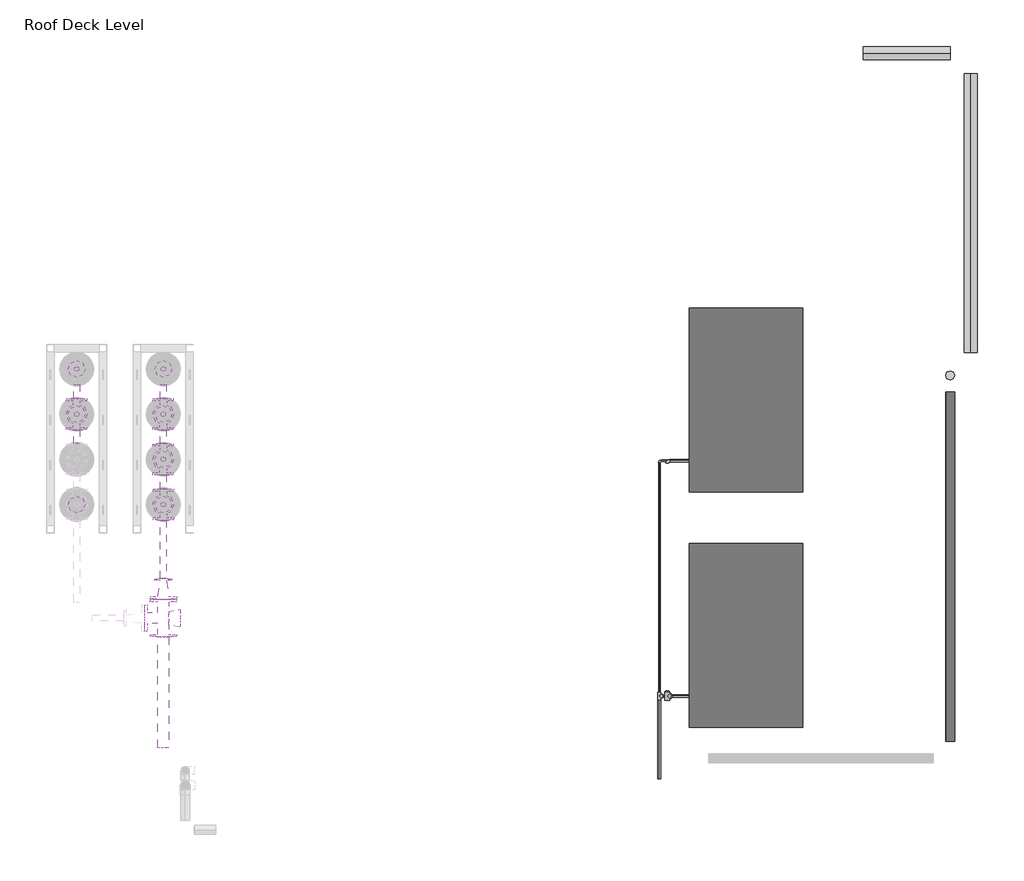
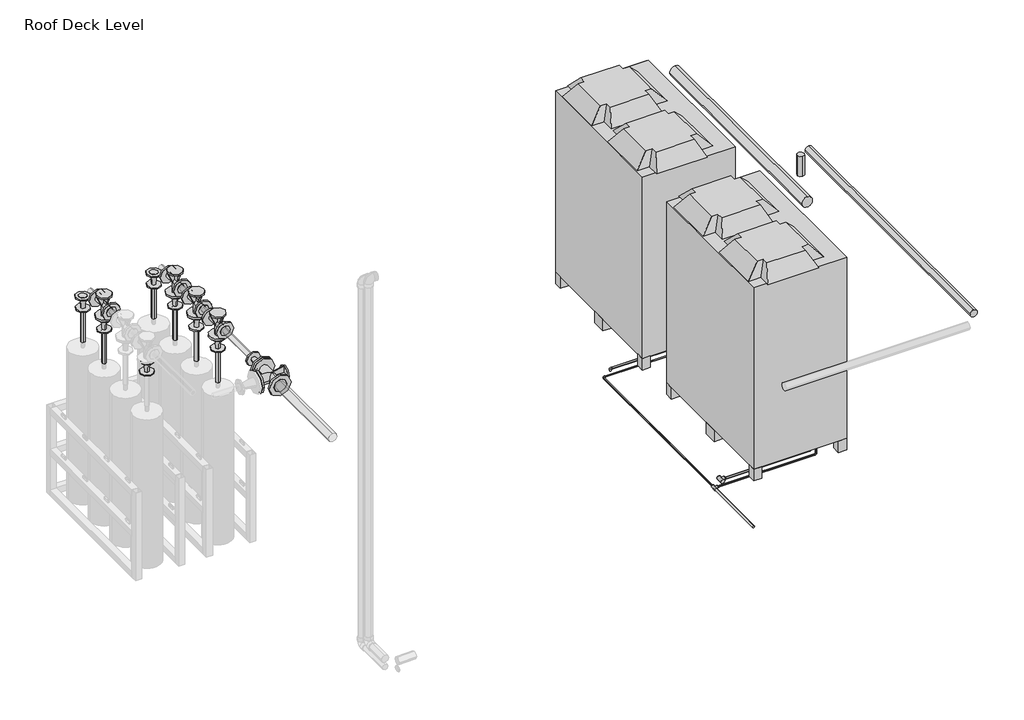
# One storey, part 3 of 3: 27 pipe fittings, 27 pipe segments, 2 proxies.
"""IFC4 building model written with IfcOpenShell, lengths in millimetres."""

from ifc_helpers import new_model, si_unit, point, frame, frame_2d, origin, place, context, project, spatial, circle_curve, trimmed, segment, composite_curve, outline, extrude, transform, mapped, element, save
from components import mechanical_equipment_ce02502f, m_elbow_generic_standard_bb5ffebe, m_elbow_generic_standard_f0c60a04, m_elbow_generic_standard_5acbe53e, m_reducer_flanged_cs_class_150_standard_b6b67c23, m_reducer_flanged_cs_class_150_standard_6ae1fdcb, m_reducer_flanged_cs_class_150_standard_777fbdd8, m_tee_generic_standard_3138dd84, m_tee_generic_standard_5078887e, m_tee_round_base_flanged_cs_class_150_standard_9c9133d0, m_tee_round_base_flanged_cs_class_150_standard_f067e6f9, m_transition_generic_standard_1c56dba2, m_transition_generic_standard_a7d161d7, m_transition_generic_standard_e868cdd7, m_transition_generic_standard_bb155b95

model = new_model("IFC4")

# Units and contexts
model_context = context("Model", 3, world=origin())
ifc_project = project(units=[si_unit("LENGTHUNIT", "METRE", prefix="MILLI")], contexts=[model_context])

# Site, building, storey
site = spatial("IfcSite", under=ifc_project)
building = spatial("IfcBuilding", under=site)
storey = spatial("IfcBuildingStorey", under=building, Name="Roof Deck Level", Elevation=4400.0)

# Proxies
placement = place(None, origin())
mechanical_equipment_shape = mechanical_equipment_ce02502f(model_context)
element("IfcBuildingElementProxy", 1, Name="Condenser-Daikin-RXYQ14-16-18P : RXYQ14P, 400v/50Hz/3Ph", ObjectType="Condenser-Daikin-RXYQ14-16-18P : RXYQ14P, 400v/50Hz/3Ph", at=placement, inside=storey, context=model_context, shape_type="MappedRepresentation", body=[
    mapped(mechanical_equipment_shape, transform((-2047.9099461, 18289.6783949, 4700.0), x_axis=(0.0, 1.0, 0.0), y_axis=(-1.0, 0.0, 0.0), z_axis=(0.0, 0.0, 1.0))),
])
element("IfcBuildingElementProxy", 2, Name="Condenser-Daikin-RXYQ14-16-18P : RXYQ14P, 400v/50Hz/3Ph", ObjectType="Condenser-Daikin-RXYQ14-16-18P : RXYQ14P, 400v/50Hz/3Ph", at=placement, inside=storey, context=model_context, shape_type="MappedRepresentation", body=[
    mapped(mechanical_equipment_shape, transform((-2047.9099461, 16700.904492, 4700.0), x_axis=(0.0, 1.0, 0.0), y_axis=(-1.0, 0.0, 0.0), z_axis=(0.0, 0.0, 1.0))),
])

# Pipe fittings
m_elbow_generic_standard_shape = m_elbow_generic_standard_bb5ffebe(model_context)
element("IfcPipeFitting", 3, ObjectType="M_Elbow - Generic : Standard", at=placement, inside=storey, context=model_context, shape_type="MappedRepresentation", body=[
    mapped(m_elbow_generic_standard_shape, transform((-1832.1333119, 17880.8017607, 4634.3568617), x_axis=(0.0, 0.0, -1.0), y_axis=(-1.0, 0.0, 0.0), z_axis=(0.0, 1.0, 0.0))),
])
element("IfcPipeFitting", 4, ObjectType="M_Elbow - Generic : Standard", at=placement, inside=storey, context=model_context, shape_type="MappedRepresentation", body=[
    mapped(m_elbow_generic_standard_shape, transform((-1832.1333119, 16292.0278578, 4634.3568617), x_axis=(0.0, 0.0, -1.0), y_axis=(-1.0, 0.0, 0.0), z_axis=(0.0, 1.0, 0.0))),
])
element("IfcPipeFitting", 5, ObjectType="M_Elbow - Generic : Standard", at=placement, inside=storey, context=model_context, shape_type="MappedRepresentation", body=[
    mapped(m_elbow_generic_standard_shape, transform((-2579.6952605, 17880.8017607, 4634.3568617), x_axis=(-1.0, 0.0, 0.0), y_axis=(0.0, -1.0, 0.0), z_axis=(0.0, 0.0, 1.0))),
])
m_elbow_generic_standard_2_shape = m_elbow_generic_standard_f0c60a04(model_context)
element("IfcPipeFitting", 6, ObjectType="M_Elbow - Generic : Standard", at=placement, inside=storey, context=model_context, shape_type="MappedRepresentation", body=[
    mapped(m_elbow_generic_standard_2_shape, transform((-1794.0061091, 17880.8745579, 4581.0887163), x_axis=(0.0, 0.0, -1.0), y_axis=(-1.0, 0.0, 0.0), z_axis=(0.0, 1.0, 0.0))),
])
element("IfcPipeFitting", 7, ObjectType="M_Elbow - Generic : Standard", at=placement, inside=storey, context=model_context, shape_type="MappedRepresentation", body=[
    mapped(m_elbow_generic_standard_2_shape, transform((-2632.5317949, 17880.8745579, 4581.0887163), x_axis=(-1.0, 0.0, 0.0), y_axis=(0.0, -0.9999999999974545, 2.2563342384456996e-06), z_axis=(0.0, 2.2563342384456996e-06, 0.9999999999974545))),
])
m_elbow_generic_standard_3_shape = m_elbow_generic_standard_5acbe53e(model_context)
element("IfcPipeFitting", 8, ObjectType="M_Elbow - Generic : Standard", at=placement, inside=storey, context=model_context, shape_type="MappedRepresentation", body=[
    mapped(m_elbow_generic_standard_3_shape, transform((-1794.0061091, 16292.100655, 4581.0887163), x_axis=(0.0, 0.0, -1.0), y_axis=(-1.0, 0.0, 0.0), z_axis=(0.0, 1.0, 0.0))),
])
m_reducer_flanged_cs_class_150_standard_shape = m_reducer_flanged_cs_class_150_standard_b6b67c23(model_context)
element("IfcPipeFitting", 9, ObjectType="M_Reducer - Flanged - CS - Class 150 : Standard", at=placement, inside=storey, context=model_context, shape_type="MappedRepresentation", body=[
    mapped(m_reducer_flanged_cs_class_150_standard_shape, transform((-6562.8546656, 18194.4611936, 6293.9014063), x_axis=(0.0, 0.0, -1.0), y_axis=(0.0, -1.0, 0.0), z_axis=(-1.0, 0.0, 0.0))),
])
element("IfcPipeFitting", 10, ObjectType="M_Reducer - Flanged - CS - Class 150 : Standard", at=placement, inside=storey, context=model_context, shape_type="MappedRepresentation", body=[
    mapped(m_reducer_flanged_cs_class_150_standard_shape, transform((-6562.8546656, 17584.8611936, 6293.9014063), x_axis=(0.0, 0.0, -1.0), y_axis=(0.0, -1.0, 0.0), z_axis=(-1.0, 0.0, 0.0))),
])
element("IfcPipeFitting", 11, ObjectType="M_Reducer - Flanged - CS - Class 150 : Standard", at=placement, inside=storey, context=model_context, shape_type="MappedRepresentation", body=[
    mapped(m_reducer_flanged_cs_class_150_standard_shape, transform((-5978.130502, 18194.4611936, 6293.9014063), x_axis=(0.0, 0.0, -1.0), y_axis=(0.0, -1.0, 0.0), z_axis=(-1.0, 0.0, 0.0))),
])
element("IfcPipeFitting", 12, ObjectType="M_Reducer - Flanged - CS - Class 150 : Standard", at=placement, inside=storey, context=model_context, shape_type="MappedRepresentation", body=[
    mapped(m_reducer_flanged_cs_class_150_standard_shape, transform((-5978.130502, 17584.8611936, 6293.9014063), x_axis=(0.0, 0.0, -1.0), y_axis=(0.0, -1.0, 0.0), z_axis=(-1.0, 0.0, 0.0))),
])
m_reducer_flanged_cs_class_150_standard_2_shape = m_reducer_flanged_cs_class_150_standard_6ae1fdcb(model_context)
element("IfcPipeFitting", 13, ObjectType="M_Reducer - Flanged - CS - Class 150 : Standard", at=placement, inside=storey, context=model_context, shape_type="MappedRepresentation", body=[
    mapped(m_reducer_flanged_cs_class_150_standard_2_shape, transform((-6562.8546656, 18499.2611936, 6293.9014063), x_axis=(0.0, 0.0, -1.0), y_axis=(-1.0, 0.0, 0.0), z_axis=(0.0, 1.0, 0.0))),
])
element("IfcPipeFitting", 14, ObjectType="M_Reducer - Flanged - CS - Class 150 : Standard", at=placement, inside=storey, context=model_context, shape_type="MappedRepresentation", body=[
    mapped(m_reducer_flanged_cs_class_150_standard_2_shape, transform((-5978.130502, 18499.2611936, 6293.9014063), x_axis=(0.0, 0.0, -1.0), y_axis=(-1.0, 0.0, 0.0), z_axis=(0.0, 1.0, 0.0))),
])
element("IfcPipeFitting", 15, ObjectType="M_Reducer - Flanged - CS - Class 150 : Standard", at=placement, inside=storey, context=model_context, shape_type="MappedRepresentation", body=[
    mapped(m_reducer_flanged_cs_class_150_standard_2_shape, transform((-5978.130502, 17889.6611936, 6293.9014063), x_axis=(0.0, 0.0, -1.0), y_axis=(-1.0, 0.0, 0.0), z_axis=(0.0, 1.0, 0.0))),
])
m_reducer_flanged_cs_class_150_standard_3_shape = m_reducer_flanged_cs_class_150_standard_777fbdd8(model_context)
element("IfcPipeFitting", 16, ObjectType="M_Reducer - Flanged - CS - Class 150 : Standard", at=placement, inside=storey, context=model_context, shape_type="MappedRepresentation", body=[
    mapped(m_reducer_flanged_cs_class_150_standard_3_shape, transform((-5978.130502, 16945.7625998, 6400.0), x_axis=(0.0, 1.0, 0.0), y_axis=(-1.0, 0.0, 0.0), z_axis=(0.0, 0.0, 1.0))),
])
m_tee_generic_standard_shape = m_tee_generic_standard_3138dd84(model_context)
element("IfcPipeFitting", 17, ObjectType="M_Tee - Generic : Standard", at=placement, inside=storey, context=model_context, shape_type="MappedRepresentation", body=[
    mapped(m_tee_generic_standard_shape, transform((-2579.6952605, 16292.0278578, 4634.3568617), x_axis=(0.0, -1.0, 0.0), y_axis=(-1.0, 0.0, 0.0), z_axis=(0.0, 0.0, -1.0))),
])
m_tee_generic_standard_2_shape = m_tee_generic_standard_5078887e(model_context)
element("IfcPipeFitting", 18, ObjectType="M_Tee - Generic : Standard", at=placement, inside=storey, context=model_context, shape_type="MappedRepresentation", body=[
    mapped(m_tee_generic_standard_2_shape, transform((-2632.5317947, 16292.100655, 4581.0921032), x_axis=(0.0, -0.999999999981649, -6.058218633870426e-06), y_axis=(-0.9999999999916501, -2.475707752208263e-11, 4.086527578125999e-06), z_axis=(-4.086527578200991e-06, 6.0582186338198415e-06, -0.9999999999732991))),
])
m_tee_round_base_flanged_cs_class_150_standard_shape = m_tee_round_base_flanged_cs_class_150_standard_9c9133d0(model_context)
element("IfcPipeFitting", 19, ObjectType="M_Tee Round Base - Flanged - CS - Class 150 : Standard", at=placement, inside=storey, context=model_context, shape_type="MappedRepresentation", body=[
    mapped(m_tee_round_base_flanged_cs_class_150_standard_shape, transform((-6562.8546656, 18194.4611936, 6400.0), x_axis=(0.0, 1.0, 0.0), y_axis=(0.0, 0.0, 1.0), z_axis=(1.0, 0.0, 0.0))),
])
element("IfcPipeFitting", 20, ObjectType="M_Tee Round Base - Flanged - CS - Class 150 : Standard", at=placement, inside=storey, context=model_context, shape_type="MappedRepresentation", body=[
    mapped(m_tee_round_base_flanged_cs_class_150_standard_shape, transform((-5978.130502, 18194.4611936, 6400.0), x_axis=(0.0, 1.0, 0.0), y_axis=(0.0, 0.0, 1.0), z_axis=(1.0, 0.0, 0.0))),
])
element("IfcPipeFitting", 21, ObjectType="M_Tee Round Base - Flanged - CS - Class 150 : Standard", at=placement, inside=storey, context=model_context, shape_type="MappedRepresentation", body=[
    mapped(m_tee_round_base_flanged_cs_class_150_standard_shape, transform((-5978.130502, 17889.6611936, 6400.0), x_axis=(0.0, 1.0, 0.0), y_axis=(0.0, 0.0, 1.0), z_axis=(1.0, 0.0, 0.0))),
])
element("IfcPipeFitting", 22, ObjectType="M_Tee Round Base - Flanged - CS - Class 150 : Standard", at=placement, inside=storey, context=model_context, shape_type="MappedRepresentation", body=[
    mapped(m_tee_round_base_flanged_cs_class_150_standard_shape, transform((-5978.130502, 17584.8611936, 6400.0), x_axis=(0.0, -1.0, 0.0), y_axis=(0.0, 0.0, 1.0), z_axis=(-1.0, 0.0, 0.0))),
])
m_tee_round_base_flanged_cs_class_150_standard_2_shape = m_tee_round_base_flanged_cs_class_150_standard_f067e6f9(model_context)
element("IfcPipeFitting", 23, ObjectType="M_Tee Round Base - Flanged - CS - Class 150 : Standard", at=placement, inside=storey, context=model_context, shape_type="MappedRepresentation", body=[
    mapped(m_tee_round_base_flanged_cs_class_150_standard_2_shape, transform((-5978.130502, 16818.7625998, 6400.0), x_axis=(0.0, 1.0, 0.0), y_axis=(1.0, 0.0, 0.0), z_axis=(0.0, 0.0, -1.0))),
])
m_transition_generic_standard_shape = m_transition_generic_standard_1c56dba2(model_context)
element("IfcPipeFitting", 24, ObjectType="M_Transition - Generic : Standard", at=placement, inside=storey, context=model_context, shape_type="MappedRepresentation", body=[
    mapped(m_transition_generic_standard_shape, transform((-2551.1202605, 16292.0278578, 4634.3568617), x_axis=(1.0, 0.0, 0.0), y_axis=(0.0, 1.0, 0.0), z_axis=(0.0, 0.0, 1.0))),
])
element("IfcPipeFitting", 25, ObjectType="M_Transition - Generic : Standard", at=placement, inside=storey, context=model_context, shape_type="MappedRepresentation", body=[
    mapped(m_transition_generic_standard_shape, transform((-2579.6952605, 16320.6028578, 4634.3568617), x_axis=(0.0, 1.0, 0.0), y_axis=(-1.0, 0.0, 0.0), z_axis=(0.0, 0.0, 1.0))),
])
m_transition_generic_standard_2_shape = m_transition_generic_standard_a7d161d7(model_context)
element("IfcPipeFitting", 26, ObjectType="M_Transition - Generic : Standard", at=placement, inside=storey, context=model_context, shape_type="MappedRepresentation", body=[
    mapped(m_transition_generic_standard_2_shape, transform((-2632.5317947, 16315.913155, 4581.0922474), x_axis=(0.0, 0.999999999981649, 6.05821863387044e-06), y_axis=(-0.9999999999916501, -2.4757077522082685e-11, 4.086527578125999e-06), z_axis=(4.086527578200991e-06, -6.058218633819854e-06, 0.9999999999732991))),
])
m_transition_generic_standard_3_shape = m_transition_generic_standard_e868cdd7(model_context)
element("IfcPipeFitting", 27, ObjectType="M_Transition - Generic : Standard", at=placement, inside=storey, context=model_context, shape_type="MappedRepresentation", body=[
    mapped(m_transition_generic_standard_3_shape, transform((-1794.0061091, 16292.100655, 4758.7502), x_axis=(0.0, 0.0, 1.0), y_axis=(-1.0, 0.0, 0.0), z_axis=(0.0, -1.0, 0.0))),
])
element("IfcPipeFitting", 28, ObjectType="M_Transition - Generic : Standard", at=placement, inside=storey, context=model_context, shape_type="MappedRepresentation", body=[
    mapped(m_transition_generic_standard_3_shape, transform((-1794.0061091, 17880.8745579, 4758.7502), x_axis=(0.0, 0.0, 1.0), y_axis=(-1.0, 0.0, 0.0), z_axis=(0.0, -1.0, 0.0))),
])
m_transition_generic_standard_4_shape = m_transition_generic_standard_bb155b95(model_context)
element("IfcPipeFitting", 29, ObjectType="M_Transition - Generic : Standard", at=placement, inside=storey, context=model_context, shape_type="MappedRepresentation", body=[
    mapped(m_transition_generic_standard_4_shape, transform((-2608.7192947, 16292.100655, 4581.0920058), x_axis=(0.9999999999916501, 0.0, -4.086527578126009e-06), y_axis=(2.4757077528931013e-11, 0.999999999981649, 6.058218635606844e-06), z_axis=(4.086527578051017e-06, -6.0582186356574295e-06, 0.9999999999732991))),
])

# Pipe segments
element("IfcPipeSegment", 30, ObjectType="Copper", at=placement, inside=storey, context=model_context, shape_type="SweptSolid", body=[
    extrude(outline(composite_curve([segment(trimmed(circle_curve(frame_2d((-1832.1333119, 16292.0278578)), 8.1), [point((-1824.0333119, 16292.0278578))], [point((-1832.1333119, 16283.9278578))], False, "CARTESIAN"), True, "CONTINUOUS"), segment(trimmed(circle_curve(frame_2d((-1832.1333119, 16292.0278578)), 8.1), [point((-1832.1333119, 16283.9278578))], [point((-1840.2333119, 16292.0278578))], False, "CARTESIAN"), True, "CONTINUOUS"), segment(trimmed(circle_curve(frame_2d((-1832.1333119, 16292.0278578)), 8.1), [point((-1840.2333119, 16292.0278578))], [point((-1832.1333119, 16300.1278578))], False, "CARTESIAN"), True, "CONTINUOUS"), segment(trimmed(circle_curve(frame_2d((-1832.1333119, 16292.0278578)), 8.1), [point((-1832.1333119, 16300.1278578))], [point((-1824.0333119, 16292.0278578))], False, "CARTESIAN"), True, "CONTINUOUS")], self_intersect=False)), frame((0.0, 0.0, 4650.2318617), z_axis=(0.0, 0.0, 1.0), x_axis=(1.0, 0.0, 0.0)), (0.0, 0.0, 1.0), 111.6933383),
])
element("IfcPipeSegment", 31, ObjectType="Copper", at=placement, inside=storey, context=model_context, shape_type="SweptSolid", body=[
    extrude(outline(composite_curve([segment(trimmed(circle_curve(frame_2d((16292.0278578, 4634.3568617)), 8.1), [point((16300.1278578, 4634.3568617))], [point((16292.0278578, 4626.2568617))], False, "CARTESIAN"), True, "CONTINUOUS"), segment(trimmed(circle_curve(frame_2d((16292.0278578, 4634.3568617)), 8.1), [point((16292.0278578, 4626.2568617))], [point((16283.9278578, 4634.3568617))], False, "CARTESIAN"), True, "CONTINUOUS"), segment(trimmed(circle_curve(frame_2d((16292.0278578, 4634.3568617)), 8.1), [point((16283.9278578, 4634.3568617))], [point((16292.0278578, 4642.4568617))], False, "CARTESIAN"), True, "CONTINUOUS"), segment(trimmed(circle_curve(frame_2d((16292.0278578, 4634.3568617)), 8.1), [point((16292.0278578, 4642.4568617))], [point((16300.1278578, 4634.3568617))], False, "CARTESIAN"), True, "CONTINUOUS")], self_intersect=False)), frame((-2543.1827605, 0.0, 0.0), z_axis=(1.0, 0.0, 0.0), x_axis=(0.0, 1.0, 0.0)), (0.0, 0.0, 1.0), 695.1744486),
])
element("IfcPipeSegment", 32, ObjectType="Copper", at=placement, inside=storey, context=model_context, shape_type="SweptSolid", body=[
    extrude(outline(composite_curve([segment(trimmed(circle_curve(frame_2d((-1794.0061091, 16292.100655)), 4.9), [point((-1789.1061091, 16292.100655))], [point((-1794.0061091, 16287.200655))], False, "CARTESIAN"), True, "CONTINUOUS"), segment(trimmed(circle_curve(frame_2d((-1794.0061091, 16292.100655)), 4.9), [point((-1794.0061091, 16287.200655))], [point((-1798.9061091, 16292.100655))], False, "CARTESIAN"), True, "CONTINUOUS"), segment(trimmed(circle_curve(frame_2d((-1794.0061091, 16292.100655)), 4.9), [point((-1798.9061091, 16292.100655))], [point((-1794.0061091, 16297.000655))], False, "CARTESIAN"), True, "CONTINUOUS"), segment(trimmed(circle_curve(frame_2d((-1794.0061091, 16292.100655)), 4.9), [point((-1794.0061091, 16297.000655))], [point((-1789.1061091, 16292.100655))], False, "CARTESIAN"), True, "CONTINUOUS")], self_intersect=False)), frame((0.0, 0.0, 4593.7762682), z_axis=(0.0, 0.0, 1.0), x_axis=(1.0, 0.0, 0.0)), (0.0, 0.0, 1.0), 164.9739318),
])
element("IfcPipeSegment", 33, ObjectType="Copper", at=placement, inside=storey, context=model_context, shape_type="SweptSolid", body=[
    extrude(outline(composite_curve([segment(trimmed(circle_curve(frame_2d((0.0, 4.9)), 4.9), [point((-4.9, 4.9))], [point((0.0, 9.8))], False, "CARTESIAN"), True, "CONTINUOUS"), segment(trimmed(circle_curve(frame_2d((0.0, 4.9)), 4.9), [point((0.0, 9.8))], [point((4.9, 4.9))], False, "CARTESIAN"), True, "CONTINUOUS"), segment(trimmed(circle_curve(frame_2d((0.0, 4.9)), 4.9), [point((4.9, 4.9))], [point((0.0, 0.0))], False, "CARTESIAN"), True, "CONTINUOUS"), segment(trimmed(circle_curve(frame_2d((0.0, 4.9)), 4.9), [point((0.0, 0.0))], [point((-4.9, 4.9))], False, "CARTESIAN"), True, "CONTINUOUS")], self_intersect=False)), frame((-1806.693681, 16292.100655, 4576.1887682), z_axis=(-0.9999999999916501, 0.0, 4.0865275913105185e-06), x_axis=(0.0, -1.0, 0.0)), (0.0, 0.0, 1.0), 796.4693838),
])
element("IfcPipeSegment", 34, ObjectType="Copper", at=placement, inside=storey, context=model_context, shape_type="SweptSolid", body=[
    extrude(outline(composite_curve([segment(trimmed(circle_curve(frame_2d((-1832.1333119, 17880.8017607)), 8.1), [point((-1824.0333119, 17880.8017607))], [point((-1832.1333119, 17872.7017607))], False, "CARTESIAN"), True, "CONTINUOUS"), segment(trimmed(circle_curve(frame_2d((-1832.1333119, 17880.8017607)), 8.1), [point((-1832.1333119, 17872.7017607))], [point((-1840.2333119, 17880.8017607))], False, "CARTESIAN"), True, "CONTINUOUS"), segment(trimmed(circle_curve(frame_2d((-1832.1333119, 17880.8017607)), 8.1), [point((-1840.2333119, 17880.8017607))], [point((-1832.1333119, 17888.9017607))], False, "CARTESIAN"), True, "CONTINUOUS"), segment(trimmed(circle_curve(frame_2d((-1832.1333119, 17880.8017607)), 8.1), [point((-1832.1333119, 17888.9017607))], [point((-1824.0333119, 17880.8017607))], False, "CARTESIAN"), True, "CONTINUOUS")], self_intersect=False)), frame((0.0, 0.0, 4650.2318617), z_axis=(0.0, 0.0, 1.0), x_axis=(1.0, 0.0, 0.0)), (0.0, 0.0, 1.0), 111.6933383),
])
element("IfcPipeSegment", 35, ObjectType="Copper", at=placement, inside=storey, context=model_context, shape_type="SweptSolid", body=[
    extrude(outline(composite_curve([segment(trimmed(circle_curve(frame_2d((17880.8017607, 4634.3568617)), 8.1), [point((17888.9017607, 4634.3568617))], [point((17880.8017607, 4626.2568617))], False, "CARTESIAN"), True, "CONTINUOUS"), segment(trimmed(circle_curve(frame_2d((17880.8017607, 4634.3568617)), 8.1), [point((17880.8017607, 4626.2568617))], [point((17872.7017607, 4634.3568617))], False, "CARTESIAN"), True, "CONTINUOUS"), segment(trimmed(circle_curve(frame_2d((17880.8017607, 4634.3568617)), 8.1), [point((17872.7017607, 4634.3568617))], [point((17880.8017607, 4642.4568617))], False, "CARTESIAN"), True, "CONTINUOUS"), segment(trimmed(circle_curve(frame_2d((17880.8017607, 4634.3568617)), 8.1), [point((17880.8017607, 4642.4568617))], [point((17888.9017607, 4634.3568617))], False, "CARTESIAN"), True, "CONTINUOUS")], self_intersect=False)), frame((-2563.8202605, 0.0, 0.0), z_axis=(1.0, 0.0, 0.0), x_axis=(0.0, 1.0, 0.0)), (0.0, 0.0, 1.0), 715.8119486),
])
element("IfcPipeSegment", 36, ObjectType="Copper", at=placement, inside=storey, context=model_context, shape_type="SweptSolid", body=[
    extrude(outline(composite_curve([segment(trimmed(circle_curve(frame_2d((-1794.0061091, 17880.8745579)), 4.9), [point((-1789.1061091, 17880.8745579))], [point((-1794.0061091, 17875.9745579))], False, "CARTESIAN"), True, "CONTINUOUS"), segment(trimmed(circle_curve(frame_2d((-1794.0061091, 17880.8745579)), 4.9), [point((-1794.0061091, 17875.9745579))], [point((-1798.9061091, 17880.8745579))], False, "CARTESIAN"), True, "CONTINUOUS"), segment(trimmed(circle_curve(frame_2d((-1794.0061091, 17880.8745579)), 4.9), [point((-1798.9061091, 17880.8745579))], [point((-1794.0061091, 17885.7745579))], False, "CARTESIAN"), True, "CONTINUOUS"), segment(trimmed(circle_curve(frame_2d((-1794.0061091, 17880.8745579)), 4.9), [point((-1794.0061091, 17885.7745579))], [point((-1789.1061091, 17880.8745579))], False, "CARTESIAN"), True, "CONTINUOUS")], self_intersect=False)), frame((0.0, 0.0, 4593.7762163), z_axis=(0.0, 0.0, 1.0), x_axis=(1.0, 0.0, 0.0)), (0.0, 0.0, 1.0), 164.9739837),
])
element("IfcPipeSegment", 37, ObjectType="Copper", at=placement, inside=storey, context=model_context, shape_type="SweptSolid", body=[
    extrude(outline(composite_curve([segment(trimmed(circle_curve(frame_2d((17880.8745579, 4581.0887163)), 4.9), [point((17885.7745579, 4581.0887163))], [point((17880.8745579, 4576.1887163))], False, "CARTESIAN"), True, "CONTINUOUS"), segment(trimmed(circle_curve(frame_2d((17880.8745579, 4581.0887163)), 4.9), [point((17880.8745579, 4576.1887163))], [point((17875.9745579, 4581.0887163))], False, "CARTESIAN"), True, "CONTINUOUS"), segment(trimmed(circle_curve(frame_2d((17880.8745579, 4581.0887163)), 4.9), [point((17875.9745579, 4581.0887163))], [point((17880.8745579, 4585.9887163))], False, "CARTESIAN"), True, "CONTINUOUS"), segment(trimmed(circle_curve(frame_2d((17880.8745579, 4581.0887163)), 4.9), [point((17880.8745579, 4585.9887163))], [point((17885.7745579, 4581.0887163))], False, "CARTESIAN"), True, "CONTINUOUS")], self_intersect=False)), frame((-2619.8442949, 0.0, 0.0), z_axis=(1.0, 0.0, 0.0), x_axis=(0.0, 1.0, 0.0)), (0.0, 0.0, 1.0), 813.1506858),
])
element("IfcPipeSegment", 38, ObjectType="Copper", at=placement, inside=storey, context=model_context, shape_type="SweptSolid", body=[
    extrude(outline(composite_curve([segment(trimmed(circle_curve(frame_2d((0.0, 4.9)), 4.9), [point((0.0, 0.0))], [point((-4.9, 4.9))], False, "CARTESIAN"), True, "CONTINUOUS"), segment(trimmed(circle_curve(frame_2d((0.0, 4.9)), 4.9), [point((-4.9, 4.9))], [point((0.0, 9.8))], False, "CARTESIAN"), True, "CONTINUOUS"), segment(trimmed(circle_curve(frame_2d((0.0, 4.9)), 4.9), [point((0.0, 9.8))], [point((4.9, 4.9))], False, "CARTESIAN"), True, "CONTINUOUS"), segment(trimmed(circle_curve(frame_2d((0.0, 4.9)), 4.9), [point((4.9, 4.9))], [point((0.0, 0.0))], False, "CARTESIAN"), True, "CONTINUOUS")], self_intersect=False)), frame((-2637.4317949, 17868.1870579, 4581.088745), z_axis=(0.0, -0.9999999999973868, 2.2862024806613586e-06), x_axis=(0.0, -2.2862024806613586e-06, -0.9999999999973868)), (0.0, 0.0, 1.0), 1546.7176529),
])
element("IfcPipeSegment", 39, ObjectType="Copper", at=placement, inside=storey, context=model_context, shape_type="SweptSolid", body=[
    extrude(outline(composite_curve([segment(trimmed(circle_curve(frame_2d((0.0, 9.75)), 9.75), [point((0.0, 19.5))], [point((9.75, 9.75))], False, "CARTESIAN"), True, "CONTINUOUS"), segment(trimmed(circle_curve(frame_2d((0.0, 9.75)), 9.75), [point((9.75, 9.75))], [point((0.0, 0.0))], False, "CARTESIAN"), True, "CONTINUOUS"), segment(trimmed(circle_curve(frame_2d((0.0, 9.75)), 9.75), [point((0.0, 0.0))], [point((-9.75, 9.75))], False, "CARTESIAN"), True, "CONTINUOUS"), segment(trimmed(circle_curve(frame_2d((0.0, 9.75)), 9.75), [point((-9.75, 9.75))], [point((0.0, 19.5))], False, "CARTESIAN"), True, "CONTINUOUS")], self_intersect=False)), frame((-2642.2817947, 15733.0560138, 4581.0887163), z_axis=(0.0, 0.9999999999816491, 6.058218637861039e-06), x_axis=(0.0, -6.058218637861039e-06, 0.9999999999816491)), (0.0, 0.0, 1.0), 535.2321413),
])
element("IfcPipeSegment", 40, ObjectType="Steel flanged", at=placement, inside=storey, context=model_context, shape_type="SweptSolid", body=[
    extrude(outline(composite_curve([segment(trimmed(circle_curve(frame_2d((5600.0, -670.9497913)), 30.1625), [point((5600.0, -640.7872913))], [point((5630.1625, -670.9497913))], False, "CARTESIAN"), True, "CONTINUOUS"), segment(trimmed(circle_curve(frame_2d((5600.0, -670.9497913)), 30.1625), [point((5630.1625, -670.9497913))], [point((5600.0, -701.1122913))], False, "CARTESIAN"), True, "CONTINUOUS"), segment(trimmed(circle_curve(frame_2d((5600.0, -670.9497913)), 30.1625), [point((5600.0, -701.1122913))], [point((5569.8375, -670.9497913))], False, "CARTESIAN"), True, "CONTINUOUS"), segment(trimmed(circle_curve(frame_2d((5600.0, -670.9497913)), 30.1625), [point((5569.8375, -670.9497913))], [point((5600.0, -640.7872913))], False, "CARTESIAN"), True, "CONTINUOUS")], self_intersect=False)), frame((0.0, 15987.00909, 0.0), z_axis=(0.0, 1.0, 0.0), x_axis=(0.0, 0.0, 1.0)), (0.0, 0.0, 1.0), 2355.7102903),
])
element("IfcPipeSegment", 41, ObjectType="Steel flanged", at=placement, inside=storey, context=model_context, shape_type="SweptSolid", body=[
    extrude(outline(composite_curve([segment(trimmed(circle_curve(frame_2d((-670.9497913, 18456.7193803)), 30.1625), [point((-701.1122913, 18456.7193803))], [point((-670.9497913, 18486.8818803))], False, "CARTESIAN"), True, "CONTINUOUS"), segment(trimmed(circle_curve(frame_2d((-670.9497913, 18456.7193803)), 30.1625), [point((-670.9497913, 18486.8818803))], [point((-640.7872913, 18456.7193803))], False, "CARTESIAN"), True, "CONTINUOUS"), segment(trimmed(circle_curve(frame_2d((-670.9497913, 18456.7193803)), 30.1625), [point((-640.7872913, 18456.7193803))], [point((-670.9497913, 18426.5568803))], False, "CARTESIAN"), True, "CONTINUOUS"), segment(trimmed(circle_curve(frame_2d((-670.9497913, 18456.7193803)), 30.1625), [point((-670.9497913, 18426.5568803))], [point((-701.1122913, 18456.7193803))], False, "CARTESIAN"), True, "CONTINUOUS")], self_intersect=False)), frame((0.0, 0.0, 5312.0), z_axis=(0.0, 0.0, 1.0), x_axis=(1.0, 0.0, 0.0)), (0.0, 0.0, 1.0), 174.0),
])
element("IfcPipeSegment", 42, ObjectType="Steel flanged", at=placement, inside=storey, context=model_context, shape_type="SweptSolid", body=[
    extrude(outline(composite_curve([segment(trimmed(circle_curve(frame_2d((4931.0, -531.2497913)), 44.45), [point((4931.0, -486.7997913))], [point((4975.45, -531.2497913))], False, "CARTESIAN"), True, "CONTINUOUS"), segment(trimmed(circle_curve(frame_2d((4931.0, -531.2497913)), 44.45), [point((4975.45, -531.2497913))], [point((4931.0, -575.6997913))], False, "CARTESIAN"), True, "CONTINUOUS"), segment(trimmed(circle_curve(frame_2d((4931.0, -531.2497913)), 44.45), [point((4931.0, -575.6997913))], [point((4886.55, -531.2497913))], False, "CARTESIAN"), True, "CONTINUOUS"), segment(trimmed(circle_curve(frame_2d((4931.0, -531.2497913)), 44.45), [point((4886.55, -531.2497913))], [point((4931.0, -486.7997913))], False, "CARTESIAN"), True, "CONTINUOUS")], self_intersect=False)), frame((0.0, 18609.1193803, 0.0), z_axis=(0.0, 1.0, 0.0), x_axis=(0.0, 0.0, 1.0)), (0.0, 0.0, 1.0), 1882.4573069),
])
element("IfcPipeSegment", 43, ObjectType="Steel flanged", at=placement, inside=storey, context=model_context, shape_type="SweptSolid", body=[
    extrude(outline(composite_curve([segment(trimmed(circle_curve(frame_2d((20631.5766872, 4931.0)), 44.45), [point((20676.0266872, 4931.0))], [point((20631.5766872, 4886.55))], False, "CARTESIAN"), True, "CONTINUOUS"), segment(trimmed(circle_curve(frame_2d((20631.5766872, 4931.0)), 44.45), [point((20631.5766872, 4886.55))], [point((20587.1266872, 4931.0))], False, "CARTESIAN"), True, "CONTINUOUS"), segment(trimmed(circle_curve(frame_2d((20631.5766872, 4931.0)), 44.45), [point((20587.1266872, 4931.0))], [point((20631.5766872, 4975.45))], False, "CARTESIAN"), True, "CONTINUOUS"), segment(trimmed(circle_curve(frame_2d((20631.5766872, 4931.0)), 44.45), [point((20631.5766872, 4975.45))], [point((20676.0266872, 4931.0))], False, "CARTESIAN"), True, "CONTINUOUS")], self_intersect=False)), frame((-1257.5752057, 0.0, 0.0), z_axis=(1.0, 0.0, 0.0), x_axis=(0.0, 1.0, 0.0)), (0.0, 0.0, 1.0), 586.3254144),
])
element("IfcPipeSegment", 44, ObjectType="Steel flanged", at=placement, inside=storey, context=model_context, shape_type="SweptSolid", body=[
    extrude(outline(composite_curve([segment(trimmed(circle_curve(frame_2d((-6562.8546656, 18499.2611936)), 16.7005), [point((-6579.5551656, 18499.2611936))], [point((-6562.8546656, 18515.9616936))], False, "CARTESIAN"), True, "CONTINUOUS"), segment(trimmed(circle_curve(frame_2d((-6562.8546656, 18499.2611936)), 16.7005), [point((-6562.8546656, 18515.9616936))], [point((-6546.1541656, 18499.2611936))], False, "CARTESIAN"), True, "CONTINUOUS"), segment(trimmed(circle_curve(frame_2d((-6562.8546656, 18499.2611936)), 16.7005), [point((-6546.1541656, 18499.2611936))], [point((-6562.8546656, 18482.5606936))], False, "CARTESIAN"), True, "CONTINUOUS"), segment(trimmed(circle_curve(frame_2d((-6562.8546656, 18499.2611936)), 16.7005), [point((-6562.8546656, 18482.5606936))], [point((-6579.5551656, 18499.2611936))], False, "CARTESIAN"), True, "CONTINUOUS")], self_intersect=False)), frame((0.0, 0.0, 5895.4), z_axis=(0.0, 0.0, 1.0), x_axis=(1.0, 0.0, 0.0)), (0.0, 0.0, 1.0), 284.5014063),
])
element("IfcPipeSegment", 45, ObjectType="Steel flanged", at=placement, inside=storey, context=model_context, shape_type="SweptSolid", body=[
    extrude(outline(composite_curve([segment(trimmed(circle_curve(frame_2d((6400.0, -6562.8546656)), 21.082), [point((6400.0, -6583.9366656))], [point((6378.918, -6562.8546656))], False, "CARTESIAN"), True, "CONTINUOUS"), segment(trimmed(circle_curve(frame_2d((6400.0, -6562.8546656)), 21.082), [point((6378.918, -6562.8546656))], [point((6400.0, -6541.7726656))], False, "CARTESIAN"), True, "CONTINUOUS"), segment(trimmed(circle_curve(frame_2d((6400.0, -6562.8546656)), 21.082), [point((6400.0, -6541.7726656))], [point((6421.082, -6562.8546656))], False, "CARTESIAN"), True, "CONTINUOUS"), segment(trimmed(circle_curve(frame_2d((6400.0, -6562.8546656)), 21.082), [point((6421.082, -6562.8546656))], [point((6400.0, -6583.9366656))], False, "CARTESIAN"), True, "CONTINUOUS")], self_intersect=False)), frame((0.0, 18300.5597873, 0.0), z_axis=(0.0, 1.0, 0.0), x_axis=(0.0, 0.0, 1.0)), (0.0, 0.0, 1.0), 92.6028125),
])
element("IfcPipeSegment", 46, ObjectType="Steel flanged", at=placement, inside=storey, context=model_context, shape_type="SweptSolid", body=[
    extrude(outline(composite_curve([segment(trimmed(circle_curve(frame_2d((-6562.8546656, 18194.4611936)), 16.7005), [point((-6579.5551656, 18194.4611936))], [point((-6562.8546656, 18211.1616936))], False, "CARTESIAN"), True, "CONTINUOUS"), segment(trimmed(circle_curve(frame_2d((-6562.8546656, 18194.4611936)), 16.7005), [point((-6562.8546656, 18211.1616936))], [point((-6546.1541656, 18194.4611936))], False, "CARTESIAN"), True, "CONTINUOUS"), segment(trimmed(circle_curve(frame_2d((-6562.8546656, 18194.4611936)), 16.7005), [point((-6546.1541656, 18194.4611936))], [point((-6562.8546656, 18177.7606936))], False, "CARTESIAN"), True, "CONTINUOUS"), segment(trimmed(circle_curve(frame_2d((-6562.8546656, 18194.4611936)), 16.7005), [point((-6562.8546656, 18177.7606936))], [point((-6579.5551656, 18194.4611936))], False, "CARTESIAN"), True, "CONTINUOUS")], self_intersect=False)), frame((0.0, 0.0, 5895.4), z_axis=(0.0, 0.0, 1.0), x_axis=(1.0, 0.0, 0.0)), (0.0, 0.0, 1.0), 284.5014063),
])
element("IfcPipeSegment", 47, ObjectType="Steel flanged", at=placement, inside=storey, context=model_context, shape_type="SweptSolid", body=[
    extrude(outline(composite_curve([segment(trimmed(circle_curve(frame_2d((6400.0, -6562.8546656)), 21.082), [point((6400.0, -6583.9366656))], [point((6378.918, -6562.8546656))], False, "CARTESIAN"), True, "CONTINUOUS"), segment(trimmed(circle_curve(frame_2d((6400.0, -6562.8546656)), 21.082), [point((6378.918, -6562.8546656))], [point((6400.0, -6541.7726656))], False, "CARTESIAN"), True, "CONTINUOUS"), segment(trimmed(circle_curve(frame_2d((6400.0, -6562.8546656)), 21.082), [point((6400.0, -6541.7726656))], [point((6421.082, -6562.8546656))], False, "CARTESIAN"), True, "CONTINUOUS"), segment(trimmed(circle_curve(frame_2d((6400.0, -6562.8546656)), 21.082), [point((6421.082, -6562.8546656))], [point((6400.0, -6583.9366656))], False, "CARTESIAN"), True, "CONTINUOUS")], self_intersect=False)), frame((0.0, 17995.7597873, 0.0), z_axis=(0.0, 1.0, 0.0), x_axis=(0.0, 0.0, 1.0)), (0.0, 0.0, 1.0), 92.6028125),
])
element("IfcPipeSegment", 48, ObjectType="Steel flanged", at=placement, inside=storey, context=model_context, shape_type="SweptSolid", body=[
    extrude(outline(composite_curve([segment(trimmed(circle_curve(frame_2d((6400.0, -5978.130502)), 21.082), [point((6400.0, -5999.212502))], [point((6378.918, -5978.130502))], False, "CARTESIAN"), True, "CONTINUOUS"), segment(trimmed(circle_curve(frame_2d((6400.0, -5978.130502)), 21.082), [point((6378.918, -5978.130502))], [point((6400.0, -5957.048502))], False, "CARTESIAN"), True, "CONTINUOUS"), segment(trimmed(circle_curve(frame_2d((6400.0, -5978.130502)), 21.082), [point((6400.0, -5957.048502))], [point((6421.082, -5978.130502))], False, "CARTESIAN"), True, "CONTINUOUS"), segment(trimmed(circle_curve(frame_2d((6400.0, -5978.130502)), 21.082), [point((6421.082, -5978.130502))], [point((6400.0, -5999.212502))], False, "CARTESIAN"), True, "CONTINUOUS")], self_intersect=False)), frame((0.0, 17690.9597873, 0.0), z_axis=(0.0, 1.0, 0.0), x_axis=(0.0, 0.0, 1.0)), (0.0, 0.0, 1.0), 92.6028125),
])
element("IfcPipeSegment", 49, ObjectType="Steel flanged", at=placement, inside=storey, context=model_context, shape_type="SweptSolid", body=[
    extrude(outline(composite_curve([segment(trimmed(circle_curve(frame_2d((6400.0, -5978.130502)), 21.082), [point((6400.0, -5999.212502))], [point((6378.918, -5978.130502))], False, "CARTESIAN"), True, "CONTINUOUS"), segment(trimmed(circle_curve(frame_2d((6400.0, -5978.130502)), 21.082), [point((6378.918, -5978.130502))], [point((6400.0, -5957.048502))], False, "CARTESIAN"), True, "CONTINUOUS"), segment(trimmed(circle_curve(frame_2d((6400.0, -5978.130502)), 21.082), [point((6400.0, -5957.048502))], [point((6421.082, -5978.130502))], False, "CARTESIAN"), True, "CONTINUOUS"), segment(trimmed(circle_curve(frame_2d((6400.0, -5978.130502)), 21.082), [point((6421.082, -5978.130502))], [point((6400.0, -5999.212502))], False, "CARTESIAN"), True, "CONTINUOUS")], self_intersect=False)), frame((0.0, 18300.5597873, 0.0), z_axis=(0.0, 1.0, 0.0), x_axis=(0.0, 0.0, 1.0)), (0.0, 0.0, 1.0), 92.6028125),
])
element("IfcPipeSegment", 50, ObjectType="Steel flanged", at=placement, inside=storey, context=model_context, shape_type="SweptSolid", body=[
    extrude(outline(composite_curve([segment(trimmed(circle_curve(frame_2d((6400.0, -5978.130502)), 21.082), [point((6400.0, -5999.212502))], [point((6378.918, -5978.130502))], False, "CARTESIAN"), True, "CONTINUOUS"), segment(trimmed(circle_curve(frame_2d((6400.0, -5978.130502)), 21.082), [point((6378.918, -5978.130502))], [point((6400.0, -5957.048502))], False, "CARTESIAN"), True, "CONTINUOUS"), segment(trimmed(circle_curve(frame_2d((6400.0, -5978.130502)), 21.082), [point((6400.0, -5957.048502))], [point((6421.082, -5978.130502))], False, "CARTESIAN"), True, "CONTINUOUS"), segment(trimmed(circle_curve(frame_2d((6400.0, -5978.130502)), 21.082), [point((6421.082, -5978.130502))], [point((6400.0, -5999.212502))], False, "CARTESIAN"), True, "CONTINUOUS")], self_intersect=False)), frame((0.0, 17995.7597873, 0.0), z_axis=(0.0, 1.0, 0.0), x_axis=(0.0, 0.0, 1.0)), (0.0, 0.0, 1.0), 92.6028125),
])
element("IfcPipeSegment", 51, ObjectType="Steel flanged", at=placement, inside=storey, context=model_context, shape_type="SweptSolid", body=[
    extrude(outline(composite_curve([segment(trimmed(circle_curve(frame_2d((6400.0, -5978.130502)), 36.5125), [point((6400.0, -6014.643002))], [point((6363.4875, -5978.130502))], False, "CARTESIAN"), True, "CONTINUOUS"), segment(trimmed(circle_curve(frame_2d((6400.0, -5978.130502)), 36.5125), [point((6363.4875, -5978.130502))], [point((6400.0, -5941.618002))], False, "CARTESIAN"), True, "CONTINUOUS"), segment(trimmed(circle_curve(frame_2d((6400.0, -5978.130502)), 36.5125), [point((6400.0, -5941.618002))], [point((6436.5125, -5978.130502))], False, "CARTESIAN"), True, "CONTINUOUS"), segment(trimmed(circle_curve(frame_2d((6400.0, -5978.130502)), 36.5125), [point((6436.5125, -5978.130502))], [point((6400.0, -6014.643002))], False, "CARTESIAN"), True, "CONTINUOUS")], self_intersect=False)), frame((0.0, 15943.5004828, 0.0), z_axis=(0.0, 1.0, 0.0), x_axis=(0.0, 0.0, 1.0)), (0.0, 0.0, 1.0), 748.262117),
])
element("IfcPipeSegment", 52, ObjectType="Steel flanged", at=placement, inside=storey, context=model_context, shape_type="SweptSolid", body=[
    extrude(outline(composite_curve([segment(trimmed(circle_curve(frame_2d((-5978.130502, 18499.2611936)), 16.7005), [point((-5961.430002, 18499.2611936))], [point((-5978.130502, 18482.5606936))], False, "CARTESIAN"), True, "CONTINUOUS"), segment(trimmed(circle_curve(frame_2d((-5978.130502, 18499.2611936)), 16.7005), [point((-5978.130502, 18482.5606936))], [point((-5994.831002, 18499.2611936))], False, "CARTESIAN"), True, "CONTINUOUS"), segment(trimmed(circle_curve(frame_2d((-5978.130502, 18499.2611936)), 16.7005), [point((-5994.831002, 18499.2611936))], [point((-5978.130502, 18515.9616936))], False, "CARTESIAN"), True, "CONTINUOUS"), segment(trimmed(circle_curve(frame_2d((-5978.130502, 18499.2611936)), 16.7005), [point((-5978.130502, 18515.9616936))], [point((-5961.430002, 18499.2611936))], False, "CARTESIAN"), True, "CONTINUOUS")], self_intersect=False)), frame((0.0, 0.0, 5895.4), z_axis=(0.0, 0.0, 1.0), x_axis=(1.0, 0.0, 0.0)), (0.0, 0.0, 1.0), 284.5014063),
])
element("IfcPipeSegment", 53, ObjectType="Steel flanged", at=placement, inside=storey, context=model_context, shape_type="SweptSolid", body=[
    extrude(outline(composite_curve([segment(trimmed(circle_curve(frame_2d((-5978.130502, 18194.4611936)), 16.7005), [point((-5961.430002, 18194.4611936))], [point((-5978.130502, 18177.7606936))], False, "CARTESIAN"), True, "CONTINUOUS"), segment(trimmed(circle_curve(frame_2d((-5978.130502, 18194.4611936)), 16.7005), [point((-5978.130502, 18177.7606936))], [point((-5994.831002, 18194.4611936))], False, "CARTESIAN"), True, "CONTINUOUS"), segment(trimmed(circle_curve(frame_2d((-5978.130502, 18194.4611936)), 16.7005), [point((-5994.831002, 18194.4611936))], [point((-5978.130502, 18211.1616936))], False, "CARTESIAN"), True, "CONTINUOUS"), segment(trimmed(circle_curve(frame_2d((-5978.130502, 18194.4611936)), 16.7005), [point((-5978.130502, 18211.1616936))], [point((-5961.430002, 18194.4611936))], False, "CARTESIAN"), True, "CONTINUOUS")], self_intersect=False)), frame((0.0, 0.0, 5895.4), z_axis=(0.0, 0.0, 1.0), x_axis=(1.0, 0.0, 0.0)), (0.0, 0.0, 1.0), 284.5014063),
])
element("IfcPipeSegment", 54, ObjectType="Steel flanged", at=placement, inside=storey, context=model_context, shape_type="SweptSolid", body=[
    extrude(outline(composite_curve([segment(trimmed(circle_curve(frame_2d((-5978.130502, 17889.6611936)), 16.7005), [point((-5961.430002, 17889.6611936))], [point((-5978.130502, 17872.9606936))], False, "CARTESIAN"), True, "CONTINUOUS"), segment(trimmed(circle_curve(frame_2d((-5978.130502, 17889.6611936)), 16.7005), [point((-5978.130502, 17872.9606936))], [point((-5994.831002, 17889.6611936))], False, "CARTESIAN"), True, "CONTINUOUS"), segment(trimmed(circle_curve(frame_2d((-5978.130502, 17889.6611936)), 16.7005), [point((-5994.831002, 17889.6611936))], [point((-5978.130502, 17906.3616936))], False, "CARTESIAN"), True, "CONTINUOUS"), segment(trimmed(circle_curve(frame_2d((-5978.130502, 17889.6611936)), 16.7005), [point((-5978.130502, 17906.3616936))], [point((-5961.430002, 17889.6611936))], False, "CARTESIAN"), True, "CONTINUOUS")], self_intersect=False)), frame((0.0, 0.0, 5895.4), z_axis=(0.0, 0.0, 1.0), x_axis=(1.0, 0.0, 0.0)), (0.0, 0.0, 1.0), 284.5014063),
])
element("IfcPipeSegment", 55, ObjectType="Steel flanged", at=placement, inside=storey, context=model_context, shape_type="SweptSolid", body=[
    extrude(outline(composite_curve([segment(trimmed(circle_curve(frame_2d((-5978.130502, 17584.8611936)), 16.7005), [point((-5961.430002, 17584.8611936))], [point((-5978.130502, 17568.1606936))], False, "CARTESIAN"), True, "CONTINUOUS"), segment(trimmed(circle_curve(frame_2d((-5978.130502, 17584.8611936)), 16.7005), [point((-5978.130502, 17568.1606936))], [point((-5994.831002, 17584.8611936))], False, "CARTESIAN"), True, "CONTINUOUS"), segment(trimmed(circle_curve(frame_2d((-5978.130502, 17584.8611936)), 16.7005), [point((-5994.831002, 17584.8611936))], [point((-5978.130502, 17601.5616936))], False, "CARTESIAN"), True, "CONTINUOUS"), segment(trimmed(circle_curve(frame_2d((-5978.130502, 17584.8611936)), 16.7005), [point((-5978.130502, 17601.5616936))], [point((-5961.430002, 17584.8611936))], False, "CARTESIAN"), True, "CONTINUOUS")], self_intersect=False)), frame((0.0, 0.0, 5895.4), z_axis=(0.0, 0.0, 1.0), x_axis=(1.0, 0.0, 0.0)), (0.0, 0.0, 1.0), 284.5014063),
])
element("IfcPipeSegment", 56, ObjectType="Steel flanged", at=placement, inside=storey, context=model_context, shape_type="SweptSolid", body=[
    extrude(outline(composite_curve([segment(trimmed(circle_curve(frame_2d((6400.0, -5978.130502)), 21.082), [point((6400.0, -5999.212502))], [point((6378.918, -5978.130502))], False, "CARTESIAN"), True, "CONTINUOUS"), segment(trimmed(circle_curve(frame_2d((6400.0, -5978.130502)), 21.082), [point((6378.918, -5978.130502))], [point((6400.0, -5957.048502))], False, "CARTESIAN"), True, "CONTINUOUS"), segment(trimmed(circle_curve(frame_2d((6400.0, -5978.130502)), 21.082), [point((6400.0, -5957.048502))], [point((6421.082, -5978.130502))], False, "CARTESIAN"), True, "CONTINUOUS"), segment(trimmed(circle_curve(frame_2d((6400.0, -5978.130502)), 21.082), [point((6421.082, -5978.130502))], [point((6400.0, -5999.212502))], False, "CARTESIAN"), True, "CONTINUOUS")], self_intersect=False)), frame((0.0, 17085.7625998, 0.0), z_axis=(0.0, 1.0, 0.0), x_axis=(0.0, 0.0, 1.0)), (0.0, 0.0, 1.0), 393.0),
])

save(model, "model.ifc")
